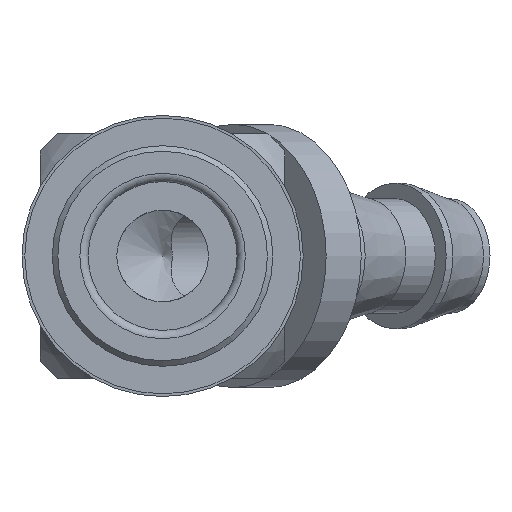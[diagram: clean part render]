
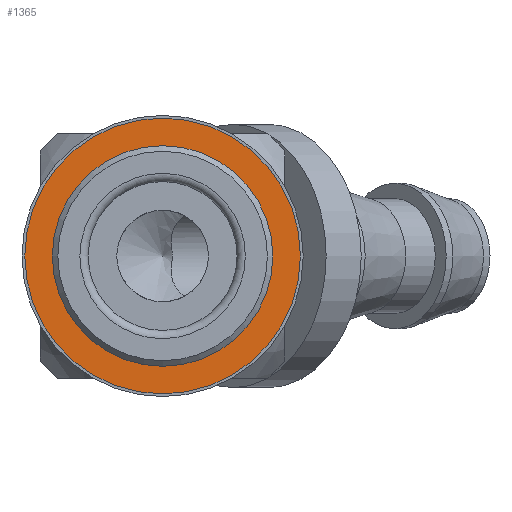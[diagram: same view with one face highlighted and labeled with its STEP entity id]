
A CAD part, left-side view. The second image highlights one B-rep face of the part: STEP entity #1365.
In plain terms, the highlighted planar face has unit normal (-1, 0, 0).
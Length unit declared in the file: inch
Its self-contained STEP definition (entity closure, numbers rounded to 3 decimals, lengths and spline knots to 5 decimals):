
#173=PLANE('',#1537);
#418=ORIENTED_EDGE('',*,*,#785,.F.);
#419=ORIENTED_EDGE('',*,*,#784,.T.);
#784=EDGE_CURVE('',#955,#955,#1052,.T.);
#785=EDGE_CURVE('',#956,#956,#1053,.T.);
#955=VERTEX_POINT('',#2438);
#956=VERTEX_POINT('',#2441);
#1052=CIRCLE('',#1536,0.356);
#1053=CIRCLE('',#1538,0.445);
#1105=EDGE_LOOP('',(#418));
#1106=EDGE_LOOP('',(#419));
#1231=FACE_BOUND('',#1105,.T.);
#1232=FACE_BOUND('',#1106,.T.);
#1365=ADVANCED_FACE('',(#1231,#1232),#173,.F.);
#1536=AXIS2_PLACEMENT_3D('',#2437,#1839,#1840);
#1537=AXIS2_PLACEMENT_3D('',#2439,#1841,#1842);
#1538=AXIS2_PLACEMENT_3D('',#2440,#1843,#1844);
#1839=DIRECTION('',(1.,0.,0.));
#1840=DIRECTION('',(0.,0.,-1.));
#1841=DIRECTION('',(1.,0.,0.));
#1842=DIRECTION('',(0.,0.,-1.));
#1843=DIRECTION('',(1.,0.,0.));
#1844=DIRECTION('',(0.,0.,-1.));
#2437=CARTESIAN_POINT('',(0.,0.,0.));
#2438=CARTESIAN_POINT('',(0.,0.,-0.356));
#2439=CARTESIAN_POINT('',(0.,0.356,0.));
#2440=CARTESIAN_POINT('',(0.,0.,0.));
#2441=CARTESIAN_POINT('',(0.,0.,-0.445));
